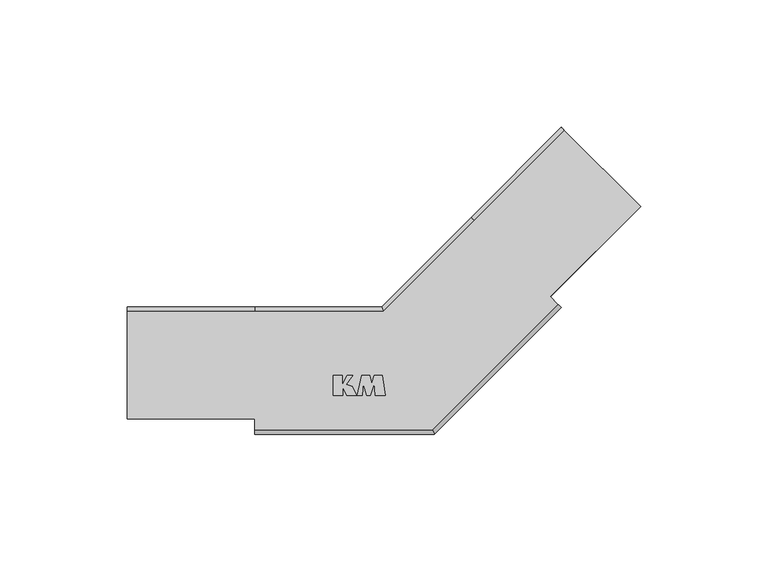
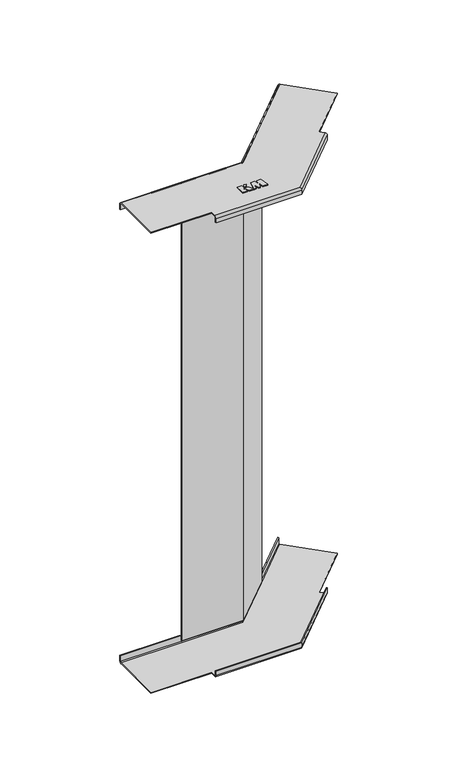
"""IFC4 building model written with IfcOpenShell, lengths in millimetres: cable carrier fitting geometry, КМ Профиль Угол вертикальный внешний VL45 : Угол вертикальный внешний VL45."""

from ifc_helpers import new_model, si_unit, frame, origin, place, context, project, spatial, polyline, circle_curve, ellipse_curve, outline, extrude, source, transform, mapped, element, save
from ifc_brep_helpers import plane_surface, cylinder_surface, revolved_surface, advanced_brep


def cable_carrier_fitting_356c1660(model_context):
    return source(origin(), model_context, "Body", "SolidModel", [
        extrude(outline(polyline([(-29.2388781, -1.986157), (-25.7316192, -1.986157), (-25.7316192, -5.564509), (-23.8289757, -1.986157), (-21.703011, -1.986157), (-24.1694955, -5.5086619), (-21.9277444, -6.194034), (-20.0604353, -9.737421), (-23.9588467, -9.737421), (-25.6630512, -6.5720802), (-25.6630512, -9.737421), (-29.2388781, -9.737421), (-29.2388781, -1.986157)])), frame((0.0, 0.0, 200.0), z_axis=(0.0, 0.0, 1.0), x_axis=(1.0, 0.0, 0.0)), (0.0, 0.0, 1.0), 0.8),
        extrude(outline(polyline([(-17.9962759, -9.737421), (-19.8943395, -9.737421), (-18.0740589, -1.9647569), (-15.0433304, -1.9647569), (-14.2768297, -5.0390232), (-13.2555223, -1.9623682), (-10.0615674, -1.9623682), (-8.8700699, -9.7429915), (-12.7725105, -9.7429915), (-13.2500032, -5.0541919), (-14.7300717, -9.7434681), (-16.2045824, -9.7434681), (-17.6126012, -5.0696135), (-17.9962759, -9.737421)])), frame((0.0, 0.0, 200.0), z_axis=(0.0, 0.0, 1.0), x_axis=(1.0, 0.0, 0.0)), (0.0, 0.0, 1.0), 0.8),
        extrude(outline(polyline([(-60.0, 23.4), (-60.0, 24.2), (-10.0239682, 24.2), (25.3144228, 59.538391), (25.8801082, 58.9727056), (-9.6925974, 23.4), (-60.0, 23.4)])), frame((0.0, 0.0, -197.4), z_axis=(0.0, 0.0, 1.0), x_axis=(1.0, 0.0, 0.0)), (0.0, 0.0, 1.0), 394.8),
        advanced_brep(
        [(-110.0, 23.2, 200.0), (-110.0, 25.0, 198.2), (-110.0, 25.0, 193.5), (-110.0, 24.2, 193.5), (-110.0, 24.2, 198.4), (-110.0, 23.4, 199.2), (-110.0, -19.0, 199.2), (-110.0, -19.0, 200.0), (-60.0, -23.2, 200.0), (9.6097546, -23.2, 200.0), (58.8312842, 26.0215295, 200.0), (55.8614357, 28.991378, 200.0), (91.2167748, 64.3467171, 200.0), (61.3768686, 94.1866233, 200.0), (26.0215295, 58.8312842, 200.0), (-9.6097546, 23.2, 200.0), (-60.0, 23.2, 200.0), (-60.0, -19.0, 200.0), (-60.0, 25.0, 198.2), (-10.3553391, 25.0, 198.2), (-10.3553391, 25.0, 193.5), (-60.0, -24.2, 194.5), (10.0239682, -24.2, 194.5), (59.538391, 25.3144228, 194.5), (60.1040764, 24.7487373, 194.5), (10.3553391, -25.0, 194.5), (-60.0, -25.0, 194.5), (10.3553391, -25.0, 198.2), (-60.0, -25.0, 198.2), (24.7487373, 60.1040764, 198.2), (60.1040764, 95.4594155, 198.2), (60.1040764, 95.4594155, 193.5), (60.1040764, 24.7487373, 198.2), (91.2167748, 64.3467171, 199.2), (61.2354473, 94.3280446, 199.2), (60.6697618, 94.89373, 198.4), (60.6697618, 94.89373, 193.5), (-10.0239682, 24.2, 193.5), (-10.0239682, 24.2, 198.4), (-60.0, 24.2, 198.4), (-60.0, 23.4, 199.2), (-9.6925974, 23.4, 199.2), (25.8801082, 58.9727056, 199.2), (55.8614357, 28.991378, 199.2), (58.9727056, 25.8801082, 199.2), (9.6925974, -23.4, 199.2), (-60.0, -23.4, 199.2), (-60.0, -19.0, 199.2), (-60.0, -24.2, 198.4), (10.0239682, -24.2, 198.4), (25.3144228, 59.538391, 198.4), (59.538391, 25.3144228, 198.4)],
        [
            (0, 1, circle_curve(frame((-110.0, 23.2, 198.2), z_axis=(-1.0, 0.0, 0.0), x_axis=(0.0, 1.0, 0.0)), 1.8)),
            (1, 2),
            (2, 3),
            (3, 4),
            (4, 5, circle_curve(frame((-110.0, 23.4, 198.4), z_axis=(1.0, 0.0, 0.0), x_axis=(0.0, 1.0, 0.0)), 0.8)),
            (5, 6),
            (6, 7),
            (7, 0),
            (8, 9),
            (9, 10),
            (10, 11),
            (11, 12),
            (12, 13),
            (13, 14),
            (14, 15),
            (15, 16),
            (16, 0),
            (7, 17),
            (17, 8),
            (1, 18),
            (18, 19),
            (19, 20),
            (20, 2),
            (21, 22),
            (22, 23),
            (23, 24),
            (24, 25),
            (25, 26),
            (26, 21),
            (25, 27),
            (27, 28),
            (28, 26),
            (19, 29),
            (29, 30),
            (30, 31),
            (31, 20),
            (24, 32),
            (32, 27),
            (30, 13, circle_curve(frame((61.3768686, 94.1866233, 198.2), z_axis=(0.707106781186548, 0.7071067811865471, 0.0), x_axis=(-0.7071067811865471, 0.707106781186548, 0.0)), 1.8)),
            (12, 33),
            (33, 34),
            (34, 35, circle_curve(frame((61.2354473, 94.3280446, 198.4), z_axis=(-0.707106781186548, -0.7071067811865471, 0.0), x_axis=(-0.7071067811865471, 0.707106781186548, 0.0)), 0.8)),
            (35, 36),
            (36, 31),
            (36, 37),
            (37, 3),
            (37, 38),
            (38, 39),
            (39, 4),
            (5, 40),
            (40, 41),
            (41, 42),
            (42, 34),
            (33, 43),
            (43, 44),
            (44, 45),
            (45, 46),
            (46, 47),
            (47, 6),
            (48, 49),
            (49, 22),
            (21, 48),
            (35, 50),
            (50, 38),
            (49, 51),
            (51, 23),
            (16, 18, circle_curve(frame((-60.0, 23.2, 198.2), z_axis=(-1.0, 0.0, 0.0), x_axis=(0.0, 1.0, 0.0)), 1.8)),
            (39, 40, circle_curve(frame((-60.0, 23.4, 198.4), z_axis=(1.0, 0.0, 0.0), x_axis=(0.0, 1.0, 0.0)), 0.8)),
            (15, 19, ellipse_curve(frame((-9.6097546, 23.2, 198.2), z_axis=(-0.9238795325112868, -0.3826834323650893, 0.0), x_axis=(-0.3826834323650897, 0.9238795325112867, 0.0)), 1.948306, 1.8)),
            (38, 41, ellipse_curve(frame((-9.6925974, 23.4, 198.4), z_axis=(0.9238795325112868, 0.3826834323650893, 0.0), x_axis=(0.3826834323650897, -0.9238795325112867, 0.0)), 0.8659138, 0.8)),
            (45, 49, ellipse_curve(frame((9.6925974, -23.4, 198.4), z_axis=(0.9238795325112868, 0.3826834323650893, 0.0), x_axis=(0.3826834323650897, -0.9238795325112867, 0.0)), 0.8659138, 0.8)),
            (48, 46, circle_curve(frame((-60.0, -23.4, 198.4), z_axis=(-1.0, 0.0, 0.0), x_axis=(0.0, 1.0, 0.0)), 0.8)),
            (8, 28, circle_curve(frame((-60.0, -23.2, 198.2), z_axis=(1.0, 0.0, 0.0), x_axis=(0.0, 1.0, 0.0)), 1.8)),
            (27, 9, ellipse_curve(frame((9.6097546, -23.2, 198.2), z_axis=(-0.9238795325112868, -0.3826834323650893, 0.0), x_axis=(-0.3826834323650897, 0.9238795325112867, 0.0)), 1.948306, 1.8)),
            (14, 29, circle_curve(frame((26.0215295, 58.8312842, 198.2), z_axis=(-0.7071067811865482, -0.7071067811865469, 0.0), x_axis=(-0.7071067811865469, 0.7071067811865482, 0.0)), 1.8)),
            (50, 42, circle_curve(frame((25.8801082, 58.9727056, 198.4), z_axis=(0.7071067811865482, 0.7071067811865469, 0.0), x_axis=(-0.7071067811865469, 0.7071067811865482, 0.0)), 0.8)),
            (44, 51, circle_curve(frame((58.9727056, 25.8801082, 198.4), z_axis=(0.7071067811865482, 0.7071067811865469, 0.0), x_axis=(-0.7071067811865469, 0.7071067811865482, 0.0)), 0.8)),
            (32, 10, circle_curve(frame((58.8312842, 26.0215295, 198.2), z_axis=(-0.7071067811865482, -0.7071067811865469, 0.0), x_axis=(-0.7071067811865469, 0.7071067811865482, 0.0)), 1.8)),
            (47, 17),
            (11, 43),
        ],
        [
            plane_surface(frame((-110.0, 0.0, 0.0), z_axis=(-1.0, 0.0, 0.0), x_axis=(0.0, 0.0, 1.0))),
            plane_surface(frame((-110.0, -23.2, 200.0), z_axis=(0.0, 0.0, 1.0), x_axis=(1.0, 0.0, 0.0))),
            plane_surface(frame((-110.0, 25.0, 198.2), z_axis=(0.0, 1.0, 0.0), x_axis=(1.0, 0.0, 0.0))),
            plane_surface(frame((-110.0, -24.2, 194.5), z_axis=(0.0, 0.0, -1.0), x_axis=(1.0, 0.0, 0.0))),
            plane_surface(frame((-110.0, -25.0, 194.5), z_axis=(0.0, -1.0, 0.0), x_axis=(1.0, 0.0, 0.0))),
            plane_surface(frame((-10.3553391, 25.0, 198.2), z_axis=(-0.7071067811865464, 0.7071067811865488, 0.0), x_axis=(0.7071067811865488, 0.7071067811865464, 0.0))),
            plane_surface(frame((10.3553391, -25.0, 194.5), z_axis=(0.7071067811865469, -0.7071067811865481, 0.0), x_axis=(0.7071067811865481, 0.7071067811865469, 0.0))),
            plane_surface(frame((77.7817459, 77.7817459, 0.0), z_axis=(0.707106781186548, 0.7071067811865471, 0.0), x_axis=(0.0, 0.0, 1.0))),
            plane_surface(frame((-110.0, 25.0, 193.5), z_axis=(0.0, 0.0, -1.0), x_axis=(1.0, 0.0, 0.0))),
            plane_surface(frame((-110.0, 24.2, 193.5), z_axis=(0.0, -1.0, 0.0), x_axis=(1.0, 0.0, 0.0))),
            plane_surface(frame((-110.0, 23.4, 199.2), z_axis=(0.0, 0.0, -1.0), x_axis=(1.0, 0.0, 0.0))),
            plane_surface(frame((-110.0, -24.2, 198.4), z_axis=(0.0, 1.0, 0.0), x_axis=(1.0, 0.0, 0.0))),
            plane_surface(frame((-10.0239682, 24.2, 193.5), z_axis=(0.7071067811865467, -0.7071067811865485, 0.0), x_axis=(0.7071067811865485, 0.7071067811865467, 0.0))),
            plane_surface(frame((10.0239682, -24.2, 198.4), z_axis=(-0.7071067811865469, 0.7071067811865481, 0.0), x_axis=(0.7071067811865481, 0.7071067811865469, 0.0))),
            cylinder_surface(frame((-110.0, 23.2, 198.2), z_axis=(-1.0, 0.0, 0.0), x_axis=(0.0, 1.0, 0.0)), 1.8),
            revolved_surface(polyline([(-60.0, 24.2, 198.4), (-110.0, 24.2, 198.4)]), (-110.0, 23.4, 198.4), (1.0, 0.0, 0.0)),
            cylinder_surface(frame((-60.0, 23.2, 198.2), z_axis=(-1.0, 0.0, 0.0), x_axis=(0.0, 1.0, 0.0)), 1.8),
            revolved_surface(polyline([(-9.361226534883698, 24.2, 198.4), (-60.0, 24.2, 198.4)]), (-60.0, 23.4, 198.4), (1.0, 0.0, 0.0)),
            revolved_surface(polyline([(10.023968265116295, -22.599999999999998, 198.4), (-60.0, -22.599999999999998, 198.4)]), (-60.0, -23.4, 198.4), (1.0, 0.0, 0.0)),
            cylinder_surface(frame((-60.0, -23.2, 198.2), z_axis=(-1.0, 0.0, 0.0), x_axis=(0.0, 1.0, 0.0)), 1.8),
            cylinder_surface(frame((-16.4048773, 16.4048773, 198.2), z_axis=(-0.7071067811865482, -0.7071067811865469, 0.0), x_axis=(-0.7071067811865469, 0.7071067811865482, 0.0)), 1.8),
            revolved_surface(polyline([(25.314422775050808, 59.538391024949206, 198.4), (-10.492597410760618, 23.731370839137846, 198.4)]), (-16.5462987, 16.5462987, 198.4), (0.7071067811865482, 0.7071067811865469, 0.0)),
            revolved_surface(polyline([(58.40702017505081, 26.445793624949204, 198.4), (8.892597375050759, -23.068629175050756, 198.4)]), (16.5462987, -16.5462987, 198.4), (0.7071067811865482, 0.7071067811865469, 0.0)),
            cylinder_surface(frame((16.4048773, -16.4048773, 198.2), z_axis=(-0.7071067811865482, -0.7071067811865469, 0.0), x_axis=(-0.7071067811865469, 0.7071067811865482, 0.0)), 1.8),
            plane_surface(frame((-60.0, -19.0, 200.0), z_axis=(0.0, -1.0, 0.0), x_axis=(0.0, 0.0, -1.0))),
            plane_surface(frame((-60.0, -25.0, 200.0), z_axis=(-1.0, 0.0, 0.0), x_axis=(0.0, 0.0, -1.0))),
            plane_surface(frame((91.2167748, 64.3467171, 200.0), z_axis=(0.7071067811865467, -0.7071067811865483, 0.0), x_axis=(0.0, 0.0, -1.0))),
            plane_surface(frame((55.8614357, 28.991378, 200.0), z_axis=(0.7071067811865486, 0.7071067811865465, 0.0), x_axis=(0.0, 0.0, -1.0))),
            cylinder_surface(frame((26.0215295, 58.8312842, 198.2), z_axis=(-0.707106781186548, -0.7071067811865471, 0.0), x_axis=(-0.7071067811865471, 0.707106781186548, 0.0)), 1.8),
            revolved_surface(polyline([(60.669761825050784, 94.89373007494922, 198.4), (25.31442277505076, 59.538391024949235, 198.4)]), (25.8801082, 58.9727056, 198.4), (0.707106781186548, 0.7071067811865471, 0.0)),
        ],
        [
            (0, [[1, 2, 3, 4, 5, 6, 7, 8]]),
            (1, [[9, 10, 11, 12, 13, 14, 15, 16, 17, -8, 18, 19]]),
            (2, [[-2, 20, 21, 22, 23]]),
            (3, [[24, 25, 26, 27, 28, 29]]),
            (4, [[30, 31, 32, -28]]),
            (5, [[-22, 33, 34, 35, 36]]),
            (6, [[-30, -27, 37, 38]]),
            (7, [[-35, 39, -13, 40, 41, 42, 43, 44]]),
            (8, [[-3, -23, -36, -44, 45, 46]]),
            (9, [[-4, -46, 47, 48, 49]]),
            (10, [[50, 51, 52, 53, -41, 54, 55, 56, 57, 58, 59, -6]]),
            (11, [[60, 61, -24, 62]]),
            (12, [[-43, 63, 64, -47, -45]]),
            (13, [[-61, 65, 66, -25]]),
            (14, [[-1, -17, 67, -20]]),
            (15, [[-5, -49, 68, -50]]),
            (16, [[-16, 69, -21, -67]]),
            (17, [[-48, 70, -51, -68]]),
            (18, [[-57, 71, -60, 72]]),
            (19, [[-9, 73, -31, 74]]),
            (20, [[-15, 75, -33, -69]]),
            (21, [[-52, -70, -64, 76]]),
            (22, [[-56, 77, -65, -71]]),
            (23, [[-10, -74, -38, 78]]),
            (24, [[79, -18, -7, -59]]),
            (25, [[-79, -58, -72, -62, -29, -32, -73, -19]]),
            (26, [[80, -54, -40, -12]]),
            (27, [[-80, -11, -78, -37, -26, -66, -77, -55]]),
            (28, [[-14, -39, -34, -75]]),
            (29, [[-42, -53, -76, -63]]),
        ],
    ),
        advanced_brep(
        [(-110.0, 24.2, -193.5), (-110.0, 25.0, -193.5), (-110.0, 25.0, -198.2), (-110.0, 23.2, -200.0), (-110.0, -19.0, -200.0), (-110.0, -19.0, -199.2), (-110.0, 23.4, -199.2), (-110.0, 24.2, -198.4), (-10.0239682, 24.2, -193.5), (60.6697618, 94.89373, -193.5), (60.1040764, 95.4594155, -193.5), (-10.3553391, 25.0, -193.5), (-10.3553391, 25.0, -198.2), (-60.0, 25.0, -198.2), (-60.0, 23.2, -200.0), (-9.6097546, 23.2, -200.0), (26.0215295, 58.8312842, -200.0), (61.3768686, 94.1866233, -200.0), (91.2167748, 64.3467171, -200.0), (55.8614357, 28.991378, -200.0), (58.8312842, 26.0215295, -200.0), (9.6097546, -23.2, -200.0), (-60.0, -23.2, -200.0), (-60.0, -19.0, -200.0), (-60.0, -25.0, -198.2), (10.3553391, -25.0, -198.2), (10.3553391, -25.0, -194.5), (-60.0, -25.0, -194.5), (60.1040764, 95.4594155, -198.2), (24.7487373, 60.1040764, -198.2), (60.1040764, 24.7487373, -198.2), (60.1040764, 24.7487373, -194.5), (60.6697618, 94.89373, -198.4), (61.2354473, 94.3280446, -199.2), (91.2167748, 64.3467171, -199.2), (59.538391, 25.3144228, -194.5), (10.0239682, -24.2, -194.5), (-60.0, -24.2, -194.5), (10.0239682, -24.2, -198.4), (-60.0, -24.2, -198.4), (-60.0, -23.4, -199.2), (9.6925974, -23.4, -199.2), (58.9727056, 25.8801082, -199.2), (55.8614357, 28.991378, -199.2), (25.8801082, 58.9727056, -199.2), (-9.6925974, 23.4, -199.2), (-60.0, 23.4, -199.2), (-60.0, -19.0, -199.2), (-60.0, 24.2, -198.4), (-10.0239682, 24.2, -198.4), (59.538391, 25.3144228, -198.4), (25.3144228, 59.538391, -198.4)],
        [
            (0, 1),
            (1, 2),
            (2, 3, circle_curve(frame((-110.0, 23.2, -198.2), z_axis=(-1.0, 0.0, 0.0), x_axis=(0.0, 1.0, 0.0)), 1.8)),
            (3, 4),
            (4, 5),
            (5, 6),
            (6, 7, circle_curve(frame((-110.0, 23.4, -198.4), z_axis=(1.0, 0.0, 0.0), x_axis=(0.0, 1.0, 0.0)), 0.8)),
            (7, 0),
            (0, 8),
            (8, 9),
            (9, 10),
            (10, 11),
            (11, 1),
            (11, 12),
            (12, 13),
            (13, 2),
            (3, 14),
            (14, 15),
            (15, 16),
            (16, 17),
            (17, 18),
            (18, 19),
            (19, 20),
            (20, 21),
            (21, 22),
            (22, 23),
            (23, 4),
            (24, 25),
            (25, 26),
            (26, 27),
            (27, 24),
            (10, 28),
            (28, 29),
            (29, 12),
            (25, 30),
            (30, 31),
            (31, 26),
            (9, 32),
            (32, 33, circle_curve(frame((61.2354473, 94.3280446, -198.4), z_axis=(-0.707106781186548, -0.7071067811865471, 0.0), x_axis=(-0.7071067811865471, 0.707106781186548, 0.0)), 0.8)),
            (33, 34),
            (34, 18),
            (17, 28, circle_curve(frame((61.3768686, 94.1866233, -198.2), z_axis=(0.707106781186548, 0.7071067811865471, 0.0), x_axis=(-0.7071067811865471, 0.707106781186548, 0.0)), 1.8)),
            (31, 35),
            (35, 36),
            (36, 37),
            (37, 27),
            (36, 38),
            (38, 39),
            (39, 37),
            (40, 41),
            (41, 42),
            (42, 43),
            (43, 34),
            (33, 44),
            (44, 45),
            (45, 46),
            (46, 6),
            (5, 47),
            (47, 40),
            (7, 48),
            (48, 49),
            (49, 8),
            (35, 50),
            (50, 38),
            (49, 51),
            (51, 32),
            (13, 14, circle_curve(frame((-60.0, 23.2, -198.2), z_axis=(-1.0, 0.0, 0.0), x_axis=(0.0, 1.0, 0.0)), 1.8)),
            (46, 48, circle_curve(frame((-60.0, 23.4, -198.4), z_axis=(1.0, 0.0, 0.0), x_axis=(0.0, 1.0, 0.0)), 0.8)),
            (12, 15, ellipse_curve(frame((-9.6097546, 23.2, -198.2), z_axis=(-0.9238795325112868, -0.3826834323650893, 0.0), x_axis=(-0.3826834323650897, 0.9238795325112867, 0.0)), 1.948306, 1.8)),
            (21, 25, ellipse_curve(frame((9.6097546, -23.2, -198.2), z_axis=(-0.9238795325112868, -0.3826834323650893, 0.0), x_axis=(-0.3826834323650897, 0.9238795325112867, 0.0)), 1.948306, 1.8)),
            (24, 22, circle_curve(frame((-60.0, -23.2, -198.2), z_axis=(1.0, 0.0, 0.0), x_axis=(0.0, 1.0, 0.0)), 1.8)),
            (38, 41, ellipse_curve(frame((9.6925974, -23.4, -198.4), z_axis=(0.9238795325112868, 0.3826834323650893, 0.0), x_axis=(0.3826834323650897, -0.9238795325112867, 0.0)), 0.8659138, 0.8)),
            (40, 39, circle_curve(frame((-60.0, -23.4, -198.4), z_axis=(-1.0, 0.0, 0.0), x_axis=(0.0, 1.0, 0.0)), 0.8)),
            (45, 49, ellipse_curve(frame((-9.6925974, 23.4, -198.4), z_axis=(0.9238795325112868, 0.3826834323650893, 0.0), x_axis=(0.3826834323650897, -0.9238795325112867, 0.0)), 0.8659138, 0.8)),
            (29, 16, circle_curve(frame((26.0215295, 58.8312842, -198.2), z_axis=(-0.7071067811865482, -0.7071067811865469, 0.0), x_axis=(-0.7071067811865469, 0.7071067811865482, 0.0)), 1.8)),
            (20, 30, circle_curve(frame((58.8312842, 26.0215295, -198.2), z_axis=(-0.7071067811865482, -0.7071067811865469, 0.0), x_axis=(-0.7071067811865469, 0.7071067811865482, 0.0)), 1.8)),
            (50, 42, circle_curve(frame((58.9727056, 25.8801082, -198.4), z_axis=(0.7071067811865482, 0.7071067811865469, 0.0), x_axis=(-0.7071067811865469, 0.7071067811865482, 0.0)), 0.8)),
            (44, 51, circle_curve(frame((25.8801082, 58.9727056, -198.4), z_axis=(0.7071067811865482, 0.7071067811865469, 0.0), x_axis=(-0.7071067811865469, 0.7071067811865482, 0.0)), 0.8)),
            (23, 47),
            (43, 19),
        ],
        [
            plane_surface(frame((-110.0, 0.0, 0.0), z_axis=(-1.0, 0.0, 0.0), x_axis=(0.0, 0.0, 1.0))),
            plane_surface(frame((-110.0, 24.2, -193.5), z_axis=(0.0, 0.0, 1.0), x_axis=(1.0, 0.0, 0.0))),
            plane_surface(frame((-110.0, 25.0, -193.5), z_axis=(0.0, 1.0, 0.0), x_axis=(1.0, 0.0, 0.0))),
            plane_surface(frame((-110.0, 23.2, -200.0), z_axis=(0.0, 0.0, -1.0), x_axis=(1.0, 0.0, 0.0))),
            plane_surface(frame((-110.0, -25.0, -198.2), z_axis=(0.0, -1.0, 0.0), x_axis=(1.0, 0.0, 0.0))),
            plane_surface(frame((-10.3553391, 25.0, -193.5), z_axis=(-0.7071067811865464, 0.7071067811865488, 0.0), x_axis=(0.7071067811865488, 0.7071067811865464, 0.0))),
            plane_surface(frame((10.3553391, -25.0, -198.2), z_axis=(0.7071067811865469, -0.7071067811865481, 0.0), x_axis=(0.7071067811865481, 0.7071067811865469, 0.0))),
            plane_surface(frame((77.7817459, 77.7817459, 0.0), z_axis=(0.707106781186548, 0.7071067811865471, 0.0), x_axis=(0.0, 0.0, 1.0))),
            plane_surface(frame((-110.0, -25.0, -194.5), z_axis=(0.0, 0.0, 1.0), x_axis=(1.0, 0.0, 0.0))),
            plane_surface(frame((-110.0, -24.2, -194.5), z_axis=(0.0, 1.0, 0.0), x_axis=(1.0, 0.0, 0.0))),
            plane_surface(frame((-110.0, -23.4, -199.2), z_axis=(0.0, 0.0, 1.0), x_axis=(1.0, 0.0, 0.0))),
            plane_surface(frame((-110.0, 24.2, -198.4), z_axis=(0.0, -1.0, 0.0), x_axis=(1.0, 0.0, 0.0))),
            plane_surface(frame((10.0239682, -24.2, -194.5), z_axis=(-0.7071067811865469, 0.7071067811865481, 0.0), x_axis=(0.7071067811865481, 0.7071067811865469, 0.0))),
            plane_surface(frame((-10.0239682, 24.2, -198.4), z_axis=(0.7071067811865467, -0.7071067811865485, 0.0), x_axis=(0.7071067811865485, 0.7071067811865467, 0.0))),
            cylinder_surface(frame((-110.0, 23.2, -198.2), z_axis=(-1.0, 0.0, 0.0), x_axis=(0.0, 1.0, 0.0)), 1.8),
            revolved_surface(polyline([(-60.0, 24.2, -198.4), (-110.0, 24.2, -198.4)]), (-110.0, 23.4, -198.4), (1.0, 0.0, 0.0)),
            cylinder_surface(frame((-60.0, 23.2, -198.2), z_axis=(-1.0, 0.0, 0.0), x_axis=(0.0, 1.0, 0.0)), 1.8),
            cylinder_surface(frame((-60.0, -23.2, -198.2), z_axis=(-1.0, 0.0, 0.0), x_axis=(0.0, 1.0, 0.0)), 1.8),
            revolved_surface(polyline([(10.023968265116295, -22.599999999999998, -198.4), (-60.0, -22.599999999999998, -198.4)]), (-60.0, -23.4, -198.4), (1.0, 0.0, 0.0)),
            revolved_surface(polyline([(-9.361226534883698, 24.2, -198.4), (-60.0, 24.2, -198.4)]), (-60.0, 23.4, -198.4), (1.0, 0.0, 0.0)),
            cylinder_surface(frame((-16.4048773, 16.4048773, -198.2), z_axis=(-0.7071067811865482, -0.7071067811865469, 0.0), x_axis=(-0.7071067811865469, 0.7071067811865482, 0.0)), 1.8),
            cylinder_surface(frame((16.4048773, -16.4048773, -198.2), z_axis=(-0.7071067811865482, -0.7071067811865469, 0.0), x_axis=(-0.7071067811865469, 0.7071067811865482, 0.0)), 1.8),
            revolved_surface(polyline([(58.40702017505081, 26.445793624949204, -198.4), (8.892597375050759, -23.068629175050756, -198.4)]), (16.5462987, -16.5462987, -198.4), (0.7071067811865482, 0.7071067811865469, 0.0)),
            revolved_surface(polyline([(25.314422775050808, 59.538391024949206, -198.4), (-10.492597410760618, 23.731370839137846, -198.4)]), (-16.5462987, 16.5462987, -198.4), (0.7071067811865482, 0.7071067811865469, 0.0)),
            plane_surface(frame((-60.0, -19.0, 200.0), z_axis=(0.0, -1.0, 0.0), x_axis=(0.0, 0.0, -1.0))),
            plane_surface(frame((-60.0, -25.0, 200.0), z_axis=(-1.0, 0.0, 0.0), x_axis=(0.0, 0.0, -1.0))),
            plane_surface(frame((91.2167748, 64.3467171, 200.0), z_axis=(0.7071067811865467, -0.7071067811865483, 0.0), x_axis=(0.0, 0.0, -1.0))),
            plane_surface(frame((55.8614357, 28.991378, 200.0), z_axis=(0.7071067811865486, 0.7071067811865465, 0.0), x_axis=(0.0, 0.0, -1.0))),
            cylinder_surface(frame((26.0215295, 58.8312842, -198.2), z_axis=(-0.707106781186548, -0.7071067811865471, 0.0), x_axis=(-0.7071067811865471, 0.707106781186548, 0.0)), 1.8),
            revolved_surface(polyline([(60.669761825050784, 94.89373007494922, -198.4), (25.31442277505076, 59.538391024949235, -198.4)]), (25.8801082, 58.9727056, -198.4), (0.707106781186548, 0.7071067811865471, 0.0)),
        ],
        [
            (0, [[1, 2, 3, 4, 5, 6, 7, 8]]),
            (1, [[-1, 9, 10, 11, 12, 13]]),
            (2, [[-2, -13, 14, 15, 16]]),
            (3, [[17, 18, 19, 20, 21, 22, 23, 24, 25, 26, 27, -4]]),
            (4, [[28, 29, 30, 31]]),
            (5, [[-12, 32, 33, 34, -14]]),
            (6, [[-29, 35, 36, 37]]),
            (7, [[-11, 38, 39, 40, 41, -21, 42, -32]]),
            (8, [[-30, -37, 43, 44, 45, 46]]),
            (9, [[47, 48, 49, -45]]),
            (10, [[50, 51, 52, 53, -40, 54, 55, 56, 57, -6, 58, 59]]),
            (11, [[-8, 60, 61, 62, -9]]),
            (12, [[-47, -44, 63, 64]]),
            (13, [[-10, -62, 65, 66, -38]]),
            (14, [[-3, -16, 67, -17]]),
            (15, [[-7, -57, 68, -60]]),
            (16, [[-15, 69, -18, -67]]),
            (17, [[-25, 70, -28, 71]]),
            (18, [[-48, 72, -50, 73]]),
            (19, [[-56, 74, -61, -68]]),
            (20, [[-19, -69, -34, 75]]),
            (21, [[-24, 76, -35, -70]]),
            (22, [[-51, -72, -64, 77]]),
            (23, [[-55, 78, -65, -74]]),
            (24, [[79, -58, -5, -27]]),
            (25, [[-79, -26, -71, -31, -46, -49, -73, -59]]),
            (26, [[80, -22, -41, -53]]),
            (27, [[-80, -52, -77, -63, -43, -36, -76, -23]]),
            (28, [[-20, -75, -33, -42]]),
            (29, [[-39, -66, -78, -54]]),
        ],
    ),
    ])


if __name__ == "__main__":
    model = new_model("IFC4")
    model_context = context("Model", 3, world=origin())
    ifc_project = project(units=[si_unit("LENGTHUNIT", "METRE", prefix="MILLI")], contexts=[model_context])
    site = spatial("IfcSite", under=ifc_project)
    building = spatial("IfcBuilding", under=site)
    placement = place(None, origin())
    cable_carrier_fitting_shape = cable_carrier_fitting_356c1660(model_context)
    element("IfcCableCarrierFitting", 1, ObjectType="КМ Профиль Угол вертикальный внешний VL45 : Угол вертикальный внешний VL45", at=placement, inside=building, context=model_context, shape_type="MappedRepresentation", body=[
        mapped(cable_carrier_fitting_shape, transform((0.0, 0.0, 0.0), x_axis=(1.0, 0.0, 0.0), y_axis=(0.0, 1.0, 0.0), z_axis=(0.0, 0.0, 1.0))),
    ])
    save(model, "model.ifc")
